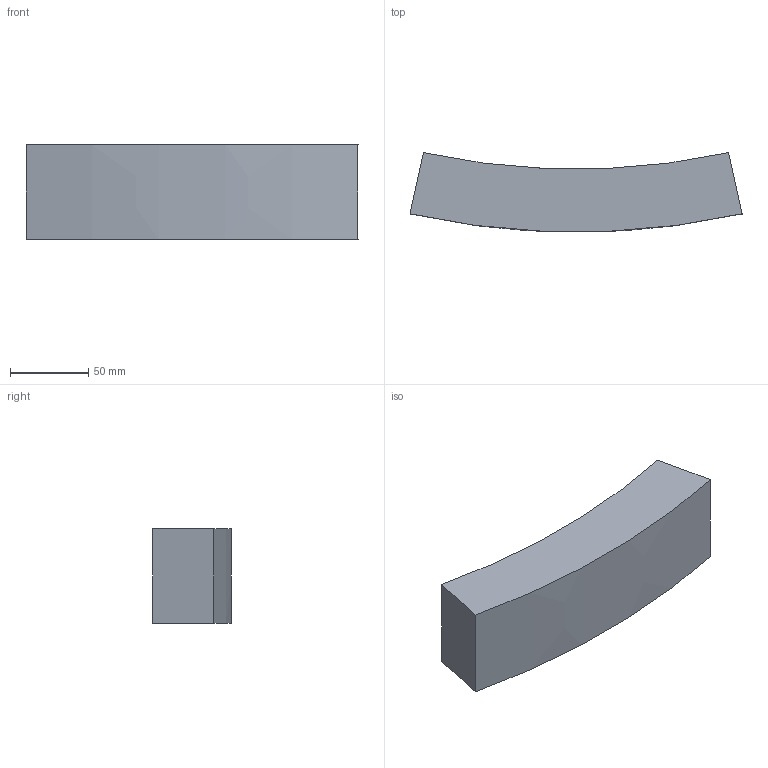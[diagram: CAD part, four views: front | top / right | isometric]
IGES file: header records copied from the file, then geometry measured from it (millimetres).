
Start section:  PTC IGES file: d160-1600_fixbloc_d450_pk-01.igs
Global section: file name: d160-1600_fixbloc_d450_pk-01.igs; native system: Creo Parametric by PTC Inc.; preprocessor: 2019030; author: demmerls; organization: Unknown; date: 20200928.083143; units: millimetre
Bounding box: 211.68 x 50.16 x 60 mm (x, y, z)
Surface area: 45729.7 mm2 (no closed solid volume)
Topology: 0 solids, 0 shells, 6 faces, 24 edges, 24 vertices
Faces by surface type: bspline 6
